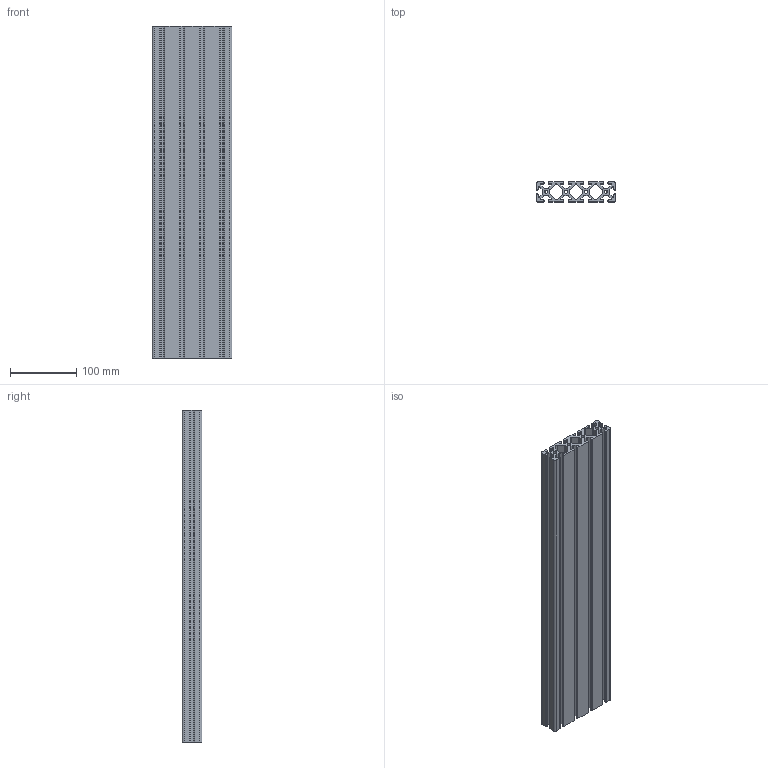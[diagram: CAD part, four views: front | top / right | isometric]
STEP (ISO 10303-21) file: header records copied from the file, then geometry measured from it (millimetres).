
FILE_DESCRIPTION (( 'STEP AP203' ), '1' );
FILE_NAME ('M ATP I6 30120.STEP', '2012-06-04T09:31:56', ( 'alle' ), ( 'Hewlett-Packard Company' ), 'SwSTEP 2.0', 'SolidWorks 2011', '' );
FILE_SCHEMA (( 'CONFIG_CONTROL_DESIGN' ));
Length unit declared in the file: millimetre
Products named in the file (1): M ATP I6 30120
Bounding box: 120 x 30 x 500 mm (x, y, z)
Volume: 787930.8 mm3; surface area: 432184.2 mm2
Topology: 1 solids, 1 shells, 222 faces, 660 edges, 440 vertices
Faces by surface type: cylinder 118, plane 104
Entity records: 7625 total; most frequent: DIRECTION 1342, CARTESIAN_POINT 1323, ORIENTED_EDGE 1320, EDGE_CURVE 660, AXIS2_PLACEMENT_3D 459, VERTEX_POINT 440, VECTOR 424, LINE 424
